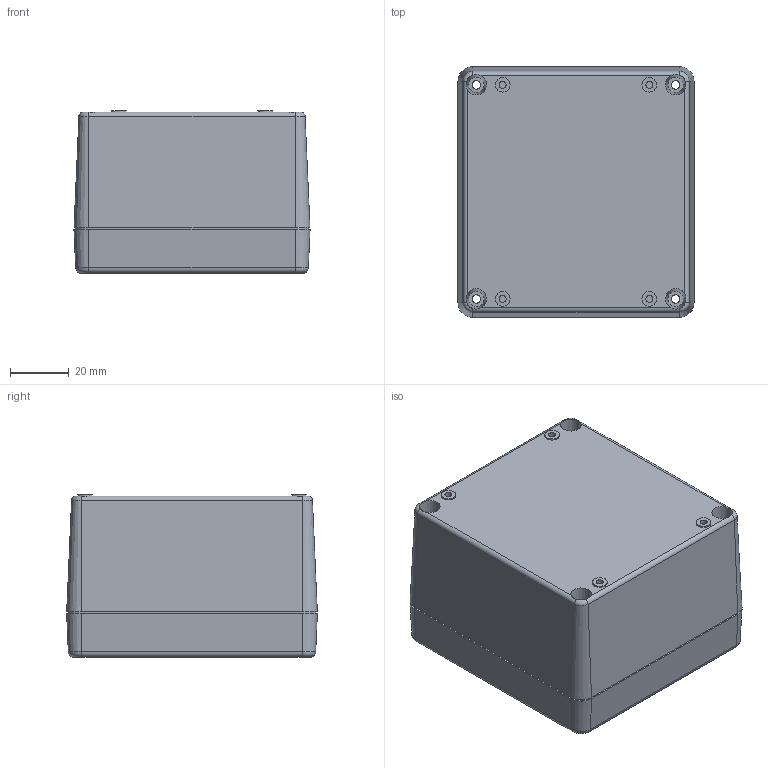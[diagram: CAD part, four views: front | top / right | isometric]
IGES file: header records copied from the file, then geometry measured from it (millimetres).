
Global section: file name: No Iges File Name specified; native system: Autodesk Inventor 2010; preprocessor: AutoDesk Inventor Iges Exporter R2010; author: tcook; date: 20090729.133343; units: millimetre
Bounding box: 80.5 x 85.5 x 55.5 mm (x, y, z)
Volume: 90298.2 mm3; surface area: 75462 mm2
Topology: 3 solids, 3 shells, 487 faces, 1196 edges, 756 vertices
Faces by surface type: revolution 204, plane 167, cylinder 56, cone 40, torus 12, bspline 8
